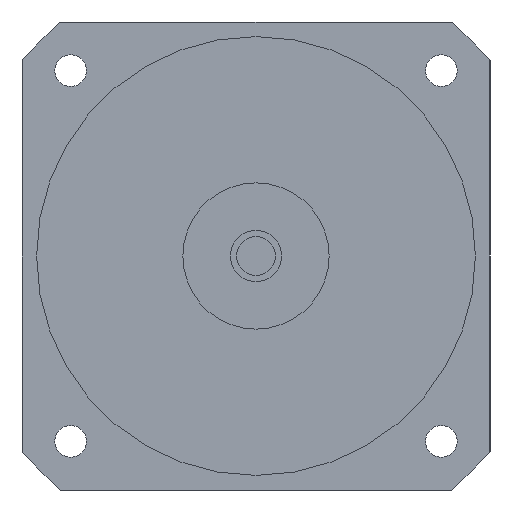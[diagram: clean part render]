
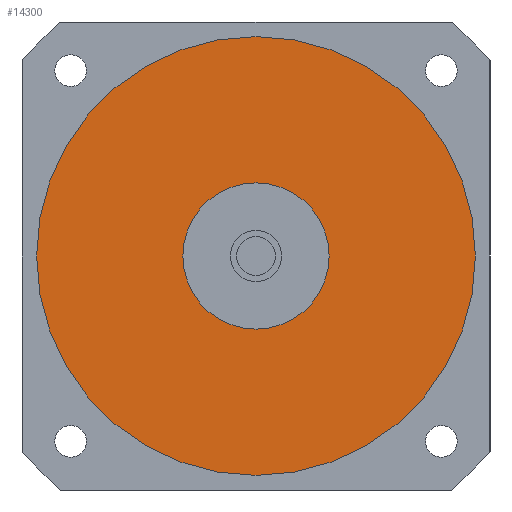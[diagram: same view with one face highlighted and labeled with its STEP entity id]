
A CAD part, left-side view. The second image highlights one B-rep face of the part: STEP entity #14300.
In plain terms, the highlighted planar face has unit normal (-1, 0, 0) as drawn and (0, 0, -1) by its records, which use the part's own axes.
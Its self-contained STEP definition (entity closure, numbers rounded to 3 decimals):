
#13720=CARTESIAN_POINT('',(90.,0.,-43.5));
#13730=VERTEX_POINT('',#13720);
#13820=CARTESIAN_POINT('',(-90.,0.,-43.5));
#13830=VERTEX_POINT('',#13820);
#13860=CARTESIAN_POINT('',(0.,0.,
-43.5));
#13870=DIRECTION('',(0.,0.,1.));
#13880=DIRECTION('',(0.,1.,0.));
#13890=AXIS2_PLACEMENT_3D('',#13860,#13870,#13880);
#13900=CIRCLE('',#13890,90.);
#13910=CARTESIAN_POINT('',(0.,90.,-43.5));
#13920=VERTEX_POINT('',#13910);
#13930=EDGE_CURVE('',#13920,#13830,#13900,.T.);
#13950=EDGE_CURVE('',#13730,#13920,#13900,.T.);
#14000=CARTESIAN_POINT('',(0.,0.,
-43.5));
#14010=DIRECTION('',(0.,0.,1.));
#14020=DIRECTION('',(-1.,0.,0.));
#14030=AXIS2_PLACEMENT_3D('',#14000,#14010,#14020);
#14040=PLANE('',#14030);
#14050=ORIENTED_EDGE('',*,*,#13930,.F.);
#14060=EDGE_CURVE('',#13830,#13730,#13900,.T.);
#14070=ORIENTED_EDGE('',*,*,#14060,.F.);
#14080=ORIENTED_EDGE('',*,*,#13950,.F.);
#14090=EDGE_LOOP('',(#14080,#14070,#14050));
#14100=FACE_OUTER_BOUND('',#14090,.T.);
#14110=CARTESIAN_POINT('',(0.,0.,
-43.5));
#14120=DIRECTION('',(0.,0.,1.));
#14130=DIRECTION('',(0.,1.,0.));
#14140=AXIS2_PLACEMENT_3D('',#14110,#14120,#14130);
#14150=CIRCLE('',#14140,30.);
#14160=CARTESIAN_POINT('',(-30.,0.,-43.5));
#14170=VERTEX_POINT('',#14160);
#14180=CARTESIAN_POINT('',(30.,0.,-43.5));
#14190=VERTEX_POINT('',#14180);
#14200=EDGE_CURVE('',#14170,#14190,#14150,.T.);
#14210=ORIENTED_EDGE('',*,*,#14200,.T.);
#14220=CARTESIAN_POINT('',(0.,30.,-43.5));
#14230=VERTEX_POINT('',#14220);
#14240=EDGE_CURVE('',#14230,#14170,#14150,.T.);
#14250=ORIENTED_EDGE('',*,*,#14240,.T.);
#14260=EDGE_CURVE('',#14190,#14230,#14150,.T.);
#14270=ORIENTED_EDGE('',*,*,#14260,.T.);
#14280=EDGE_LOOP('',(#14270,#14250,#14210));
#14290=FACE_BOUND('',#14280,.T.);
#14300=ADVANCED_FACE('',(#14100,#14290),#14040,.F.);
